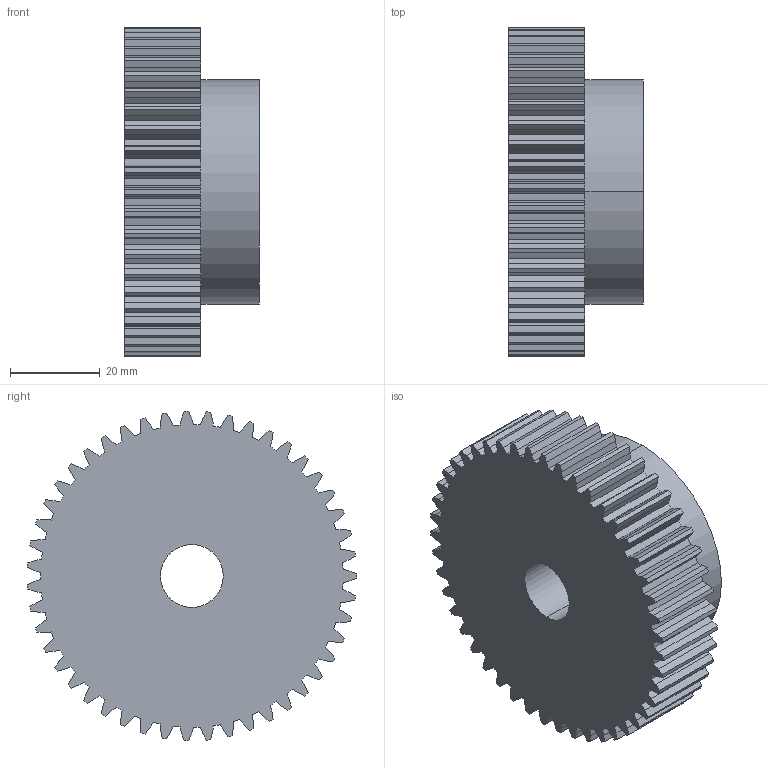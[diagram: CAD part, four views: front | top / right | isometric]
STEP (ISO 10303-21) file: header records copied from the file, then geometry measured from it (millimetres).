
FILE_DESCRIPTION (( 'STEP AP203' ), '1' );
FILE_NAME ('PM 27047.STEP', '2013-09-24T10:25:28', ( '' ), ( '' ), 'SwSTEP 2.0', 'SolidWorks 2010', '' );
FILE_SCHEMA (( 'CONFIG_CONTROL_DESIGN' ));
Length unit declared in the file: millimetre
Products named in the file (1): PM 27047
Bounding box: 30 x 73.45 x 73.49 mm (x, y, z)
Volume: 86691.3 mm3; surface area: 17897.8 mm2
Topology: 1 solids, 1 shells, 289 faces, 858 edges, 572 vertices
Faces by surface type: plane 191, cylinder 98
Entity records: 9751 total; most frequent: CARTESIAN_POINT 1726, ORIENTED_EDGE 1716, DIRECTION 1632, EDGE_CURVE 858, VECTOR 660, LINE 660, VERTEX_POINT 572, AXIS2_PLACEMENT_3D 486
